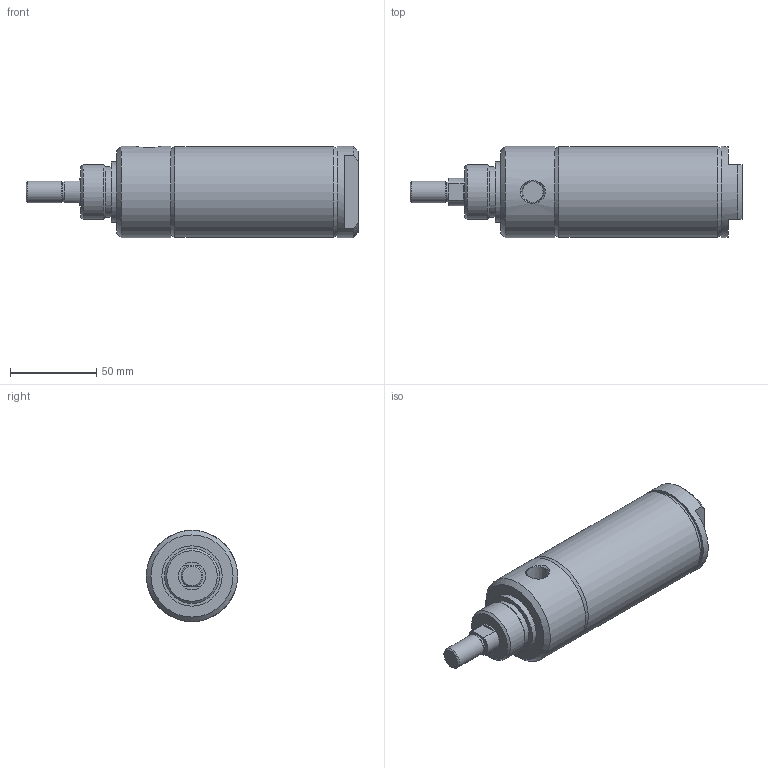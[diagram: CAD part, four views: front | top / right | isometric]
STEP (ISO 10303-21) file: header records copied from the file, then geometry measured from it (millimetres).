
FILE_DESCRIPTION( ( 'STEP AP214' ), '1' );
FILE_NAME( 'p:/temp/worker_475/temp/exporttempdir_84220_260_SRRqz/format_0/2000D01-02A-03.stp', '2020-05-07T19:06:20', ( 'License CC BY-ND 4.0' ), ( 'CADENAS' ), ' ', 'PARTsolutions', ' ' );
FILE_SCHEMA( ( 'AUTOMOTIVE_DESIGN { 1 0 10303 214 1 1 1 1 }' ) );
Length unit declared in the file: inch
Products named in the file (3): 2000D01-02A-03; _2000D01-02A-0300A00A0b; _2000D01-02A-0300A00A0r
Assembly tree (2 placements, depth 2):
  2000D01-02A-03
    _2000D01-02A-0300A00A0b
    _2000D01-02A-0300A00A0r
Bounding box: 192.1 x 52.78 x 52.78 mm (x, y, z)
Volume: 221801.6 mm3; surface area: 68771.9 mm2
Topology: 2 solids, 2 shells, 48 faces, 92 edges, 58 vertices
Faces by surface type: plane 22, cone 13, cylinder 13
Full cylindrical faces by diameter (mm): 11.189 x1, 12.7 x1, 15.875 x3, 29.23 x1, 31.75 x1, 34.925 x1, 50.8 x2, 52.578 x1, 52.781 x2
Entity records: 1605 total; most frequent: CARTESIAN_POINT 271, DIRECTION 206, ORIENTED_EDGE 130, AXIS2_PLACEMENT_3D 95, EDGE_LOOP 84, EDGE_CURVE 65, FACE_OUTER_BOUND 61, VERTEX_POINT 55
